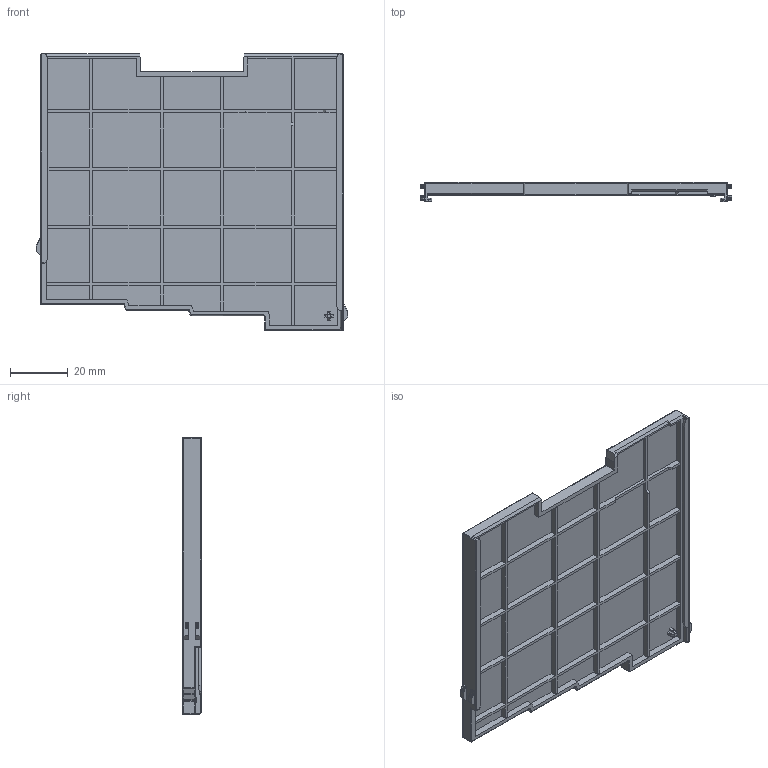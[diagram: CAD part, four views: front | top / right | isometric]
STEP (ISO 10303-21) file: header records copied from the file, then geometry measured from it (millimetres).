
FILE_DESCRIPTION((''),'2;1');
FILE_NAME('80740372','2023-09-04T11:14:00',('Administrator'),(''),'CREO PARAMETRIC BY PTC INC, 2019080','CREO PARAMETRIC BY PTC INC, 2019080','');
FILE_SCHEMA(('CONFIG_CONTROL_DESIGN'));
Length unit declared in the file: millimetre
Products named in the file (1): 80740372
Bounding box: 108 x 6.5 x 96 mm (x, y, z)
Volume: 22246.3 mm3; surface area: 25158.8 mm2
Topology: 1 solids, 1 shells, 333 faces, 883 edges, 565 vertices
Faces by surface type: plane 230, cylinder 76, sphere 11, torus 7, bspline 5, cone 4
Entity records: 10723 total; most frequent: CARTESIAN_POINT 2457, ORIENTED_EDGE 1766, DIRECTION 1609, EDGE_CURVE 883, VECTOR 713, LINE 713, VERTEX_POINT 565, AXIS2_PLACEMENT_3D 448
